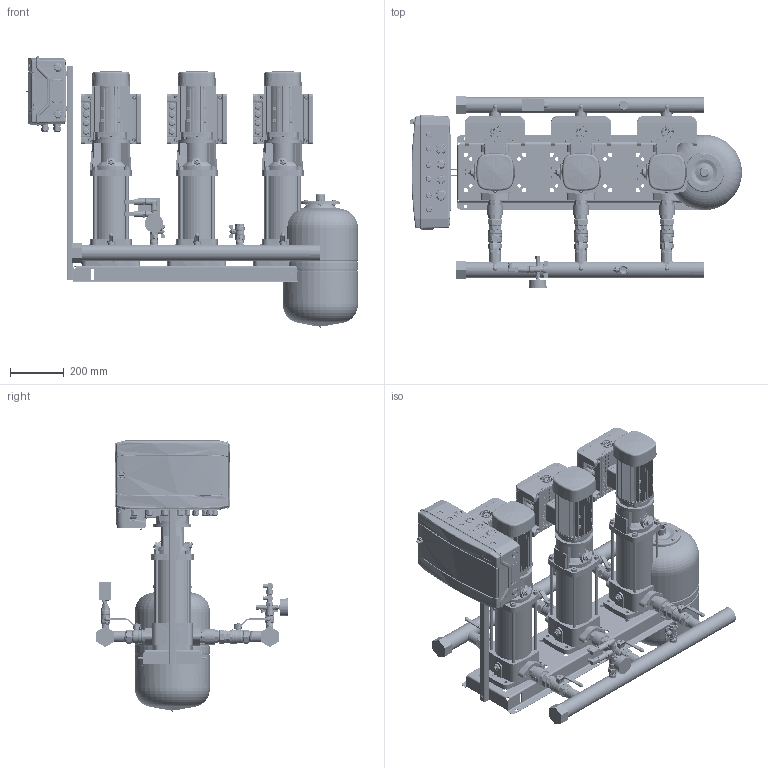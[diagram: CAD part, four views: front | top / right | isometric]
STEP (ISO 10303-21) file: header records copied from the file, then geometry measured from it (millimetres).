
FILE_DESCRIPTION(('CATIA V5 STEP Exchange','CAx-IF Rec.Pracs.--- Model Styling and Organization---1.4--- 2014-01-23','CAx-IF Rec.Pracs.---3D Tessellated Data Validation Properties---0.5---2014-09-14'),'2;1');
FILE_NAME('C:\Users\78432\YandexDisk\Drawings and 3D\3D Hydro Booster\Hydro-ME 3D\Hydro Models\Hydro ME 3 CRV3-xx\Hydro ME 3 CRVE3-15.stp','2023-09-21T09:29:08+00:00',('none'),('none'),'CATIA Version 5-6 Release 2019 SP6','CATIA V5 STEP AP242 v1','none');
FILE_SCHEMA(('AP242_MANAGED_MODEL_BASED_3D_ENGINEERING_MIM_LF {1 0 10303 442 1 1 4}'));
Products named in the file (46): Hydro ME 3 CRVE3-15; 92051012; CRV3-15 Set; CRV 3-15_A_Oval_1.1kW; Base; Flange.1; Flange.2; Sleeve; Pumphead; Staybolt.1; Staybolt.2; Staybolt.3; Staybolt.4; Plug; AirVent; Motor; 92807543_9022-04; Hydraulica NY DN32 1,25 PN16; DN32_FM_LV_47.303.32; 92814060_9013-04; SAJ PDH30 0,75-2,2kW; 97941451; 405801; 91040265; 91040272; 97941488; 00ID7526; Holder and CP 18mod; 92878909; Control ME (18mod); 2 sensors + manometer cpl.; manometr 16 bar; RPD-I-G1_2; 9021-01; 2070 1/2-1/2; _2020 1/2-1/2; 98594078; Tank 24L cpl.; DN20_FF_BF_47.300.20; WAV-24(D140 1'')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
Assembly tree (55 placements, depth 4):
  Hydro ME 3 CRVE3-15
    92051012
    CRV3-15 Set  x3
      CRV 3-15_A_Oval_1.1kW
        Base
        Flange.1
        Flange.2
        Sleeve
        Pumphead
        Staybolt.1
        Staybolt.2
        Staybolt.3
        Staybolt.4
        Plug
        AirVent
        Motor
      92807543_9022-04
      Hydraulica NY DN32 1,25 PN16
      DN32_FM_LV_47.303.32
      92814060_9013-04
      SAJ PDH30 0,75-2,2kW
    97941451  x2
      405801
      91040265
      91040272
      97941488
    00ID7526  x2
    Holder and CP 18mod
      92878909
      Control ME (18mod)
    2 sensors + manometer cpl.
      manometr 16 bar
      RPD-I-G1_2  x2
      9021-01
      2070 1/2-1/2
      _2020 1/2-1/2
      98594078
    Tank 24L cpl.
      DN20_FF_BF_47.300.20
      9021-03
    Relay cpl.
      Relay RD-2R
      DN20_FF_BF_47.300.20
      2530 3/4-1/2
      _2530 1/2-1/4
    91078139
  WAV-24(D140 1'')
Bounding box: 1236.82 x 712 x 1009.9 mm (x, y, z)
Volume: 66156499.2 mm3; surface area: 7289188.3 mm2
Topology: 218 solids, 254 shells, 25897 faces, 75781 edges, 50787 vertices
Faces by surface type: plane 11271, cylinder 6377, bspline 5889, cone 1763, torus 432, sphere 165
Entity records: 562585 total; most frequent: CARTESIAN_POINT 278471, ORIENTED_EDGE 72759, EDGE_CURVE 36861, DIRECTION 34071, VERTEX_POINT 24569, VECTOR 15863, LINE 15863, EDGE_LOOP 14348
